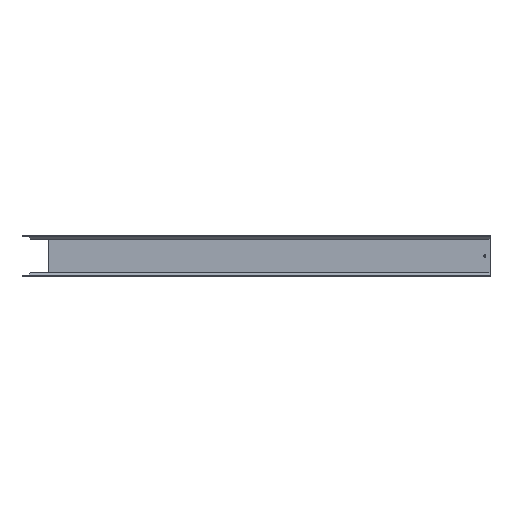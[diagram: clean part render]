
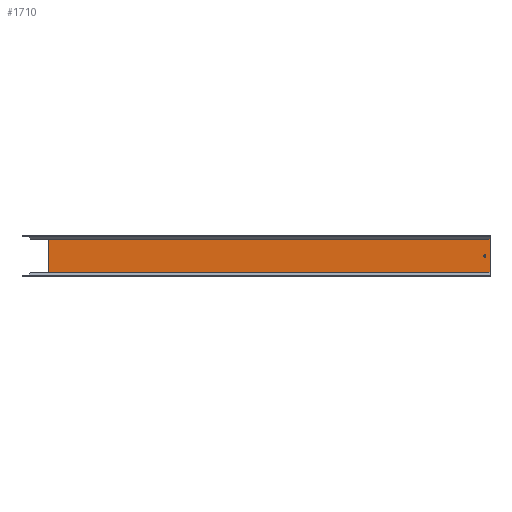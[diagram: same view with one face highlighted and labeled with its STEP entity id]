
A CAD part, front view. The second image highlights one B-rep face of the part: STEP entity #1710.
In plain terms, the highlighted planar face has unit normal (0, -1, 0).
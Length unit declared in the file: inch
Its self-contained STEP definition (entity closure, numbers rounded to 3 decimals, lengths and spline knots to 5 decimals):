
#50 = AXIS2_PLACEMENT_3D ( 'NONE', #976, #950, #972 ) ;
#530 = CARTESIAN_POINT ( 'NONE',  ( 1., -0.036, 0. ) ) ;
#533 = DIRECTION ( 'NONE',  ( 1., 0., 0. ) ) ;
#534 = DIRECTION ( 'NONE',  ( 0., 0., -1. ) ) ;
#536 = CARTESIAN_POINT ( 'NONE',  ( 0., -0.036, -0.029 ) ) ;
#539 = DIRECTION ( 'NONE',  ( 0., 1., 0. ) ) ;
#540 = DIRECTION ( 'NONE',  ( 0., 0., -1. ) ) ;
#543 = CARTESIAN_POINT ( 'NONE',  ( 17.3, -0.036, -0.7315 ) ) ;
#630 = DIRECTION ( 'NONE',  ( 0., 0., -1. ) ) ;
#636 = CARTESIAN_POINT ( 'NONE',  ( 17.5, -0.036, -1.43375 ) ) ;
#653 = CARTESIAN_POINT ( 'NONE',  ( 17.5, -0.036, 0. ) ) ;
#657 = DIRECTION ( 'NONE',  ( -1., 0., 0. ) ) ;
#736 = EDGE_CURVE ( 'NONE', #2050, #2033, #2037, .T. ) ;
#737 = EDGE_CURVE ( 'NONE', #2050, #2049, #2071, .T. ) ;
#740 = EDGE_CURVE ( 'NONE', #2564, #2036, #2053, .T. ) ;
#789 = EDGE_CURVE ( 'NONE', #2033, #2090, #2177, .T. ) ;
#792 = EDGE_CURVE ( 'NONE', #2090, #2049, #2197, .T. ) ;
#950 = DIRECTION ( 'NONE',  ( 0., -1., 0. ) ) ;
#970 = PLANE ( 'NONE',  #50 ) ;
#972 = DIRECTION ( 'NONE',  ( 0., 0., -1. ) ) ;
#976 = CARTESIAN_POINT ( 'NONE',  ( 0., -0.036, 0. ) ) ;
#1000 = CARTESIAN_POINT ( 'NONE',  ( 1., -0.036, -1.43375 ) ) ;
#1005 = CARTESIAN_POINT ( 'NONE',  ( 1., -0.036, -0.029 ) ) ;
#1009 = CARTESIAN_POINT ( 'NONE',  ( 17.3, -0.036, -0.7715 ) ) ;
#1028 = CARTESIAN_POINT ( 'NONE',  ( 17.5, -0.036, -0.029 ) ) ;
#1062 = CARTESIAN_POINT ( 'NONE',  ( 17.5, -0.036, -1.43375 ) ) ;
#1110 = CARTESIAN_POINT ( 'NONE',  ( 17.3, -0.036, -0.6915 ) ) ;
#1405 = DIRECTION ( 'NONE',  ( 0., 1., 0. ) ) ;
#1413 = CARTESIAN_POINT ( 'NONE',  ( 17.3, -0.036, -0.7315 ) ) ;
#1418 = DIRECTION ( 'NONE',  ( 0., 0., -1. ) ) ;
#1531 = ORIENTED_EDGE ( 'NONE', *, *, #737, .T. ) ;
#1543 = ORIENTED_EDGE ( 'NONE', *, *, #736, .F. ) ;
#1620 = AXIS2_PLACEMENT_3D ( 'NONE', #1413, #1405, #1418 ) ;
#1710 = ADVANCED_FACE ( 'NONE', ( #2269, #2237 ), #970, .T. ) ;
#1764 = CIRCLE ( 'NONE', #1620, 0.04 ) ;
#1938 = ORIENTED_EDGE ( 'NONE', *, *, #789, .F. ) ;
#1947 = EDGE_LOOP ( 'NONE', ( #1543, #1531, #2019, #1938 ) ) ;
#1953 = EDGE_LOOP ( 'NONE', ( #2001, #2032 ) ) ;
#2001 = ORIENTED_EDGE ( 'NONE', *, *, #740, .T. ) ;
#2019 = ORIENTED_EDGE ( 'NONE', *, *, #792, .F. ) ;
#2032 = ORIENTED_EDGE ( 'NONE', *, *, #2697, .T. ) ;
#2033 = VERTEX_POINT ( 'NONE', #1028 ) ;
#2036 = VERTEX_POINT ( 'NONE', #1009 ) ;
#2037 = LINE ( 'NONE', #536, #2079 ) ;
#2043 = VECTOR ( 'NONE', #534, 39.37008 ) ;
#2049 = VERTEX_POINT ( 'NONE', #1000 ) ;
#2050 = VERTEX_POINT ( 'NONE', #1005 ) ;
#2053 = CIRCLE ( 'NONE', #2686, 0.04 ) ;
#2071 = LINE ( 'NONE', #530, #2043 ) ;
#2079 = VECTOR ( 'NONE', #533, 39.37008 ) ;
#2090 = VERTEX_POINT ( 'NONE', #1062 ) ;
#2158 = VECTOR ( 'NONE', #630, 39.37008 ) ;
#2177 = LINE ( 'NONE', #653, #2158 ) ;
#2197 = LINE ( 'NONE', #636, #2200 ) ;
#2200 = VECTOR ( 'NONE', #657, 39.37008 ) ;
#2237 = FACE_OUTER_BOUND ( 'NONE', #1947, .T. ) ;
#2269 = FACE_BOUND ( 'NONE', #1953, .T. ) ;
#2564 = VERTEX_POINT ( 'NONE', #1110 ) ;
#2686 = AXIS2_PLACEMENT_3D ( 'NONE', #543, #539, #540 ) ;
#2697 = EDGE_CURVE ( 'NONE', #2036, #2564, #1764, .T. ) ;
